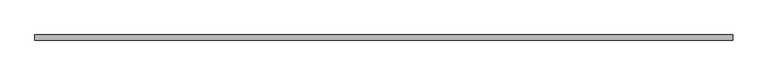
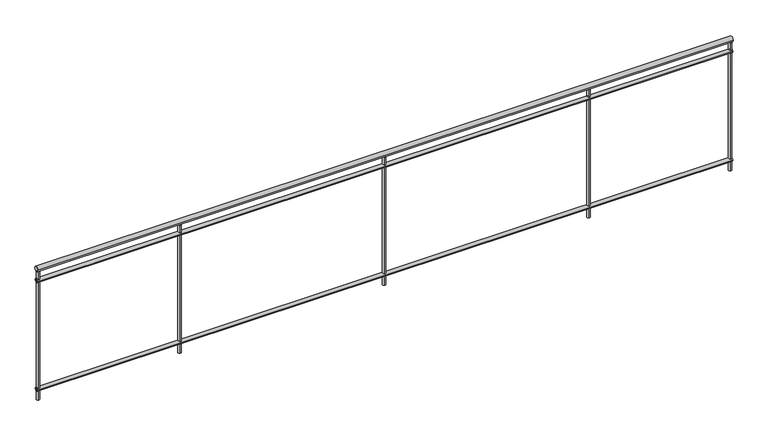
"""IFC4 building model written with IfcOpenShell, lengths in millimetres: railing geometry, バルコニー手摺."""

from ifc_helpers import new_model, si_unit, point, frame, frame_2d, origin, place, context, project, spatial, circle_curve, trimmed, segment, composite_curve, outline, extrude, source, transform, mapped, element, save


def railing_587aa39a(model_context):
    return source(origin(), model_context, "Body", "SweptSolid", [
        extrude(outline(composite_curve([segment(trimmed(circle_curve(frame_2d((10035.2598658, 4980.0)), 20.0), [point((10055.2598658, 4980.0))], [point((10015.2598658, 4980.0))], False, "CARTESIAN"), True, "CONTINUOUS"), segment(trimmed(circle_curve(frame_2d((10035.2598658, 4980.0)), 20.0), [point((10015.2598658, 4980.0))], [point((10055.2598658, 4980.0))], False, "CARTESIAN"), True, "CONTINUOUS")], self_intersect=False)), frame((3414.3805905, 0.0, 0.0), z_axis=(1.0, 0.0, 0.0), x_axis=(0.0, 1.0, 0.0)), (0.0, 0.0, 1.0), 5440.0),
        extrude(outline(composite_curve([segment(trimmed(circle_curve(frame_2d((10035.2598658, 4885.0)), 15.0), [point((10050.2598658, 4885.0))], [point((10020.2598658, 4885.0))], False, "CARTESIAN"), True, "CONTINUOUS"), segment(trimmed(circle_curve(frame_2d((10035.2598658, 4885.0)), 15.0), [point((10020.2598658, 4885.0))], [point((10050.2598658, 4885.0))], False, "CARTESIAN"), True, "CONTINUOUS")], self_intersect=False)), frame((3414.3805905, 0.0, 0.0), z_axis=(1.0, 0.0, 0.0), x_axis=(0.0, 1.0, 0.0)), (0.0, 0.0, 1.0), 5440.0),
        extrude(outline(composite_curve([segment(trimmed(circle_curve(frame_2d((10035.2598658, 3985.0)), 15.0), [point((10050.2598658, 3985.0))], [point((10020.2598658, 3985.0))], False, "CARTESIAN"), True, "CONTINUOUS"), segment(trimmed(circle_curve(frame_2d((10035.2598658, 3985.0)), 15.0), [point((10020.2598658, 3985.0))], [point((10050.2598658, 3985.0))], False, "CARTESIAN"), True, "CONTINUOUS")], self_intersect=False)), frame((3414.3805905, 0.0, 0.0), z_axis=(1.0, 0.0, 0.0), x_axis=(0.0, 1.0, 0.0)), (0.0, 0.0, 1.0), 5440.0),
        extrude(outline(composite_curve([segment(trimmed(circle_curve(frame_2d((7734.3805905, 10035.2598658)), 12.5), [point((7734.3805905, 10047.7598658))], [point((7734.3805905, 10022.7598658))], False, "CARTESIAN"), True, "CONTINUOUS"), segment(trimmed(circle_curve(frame_2d((7734.3805905, 10035.2598658)), 12.5), [point((7734.3805905, 10022.7598658))], [point((7734.3805905, 10047.7598658))], False, "CARTESIAN"), True, "CONTINUOUS")], self_intersect=False)), frame((0.0, 0.0, 3900.0), z_axis=(0.0, 0.0, 1.0), x_axis=(1.0, 0.0, 0.0)), (0.0, 0.0, 1.0), 1060.0),
        extrude(outline(composite_curve([segment(trimmed(circle_curve(frame_2d((6134.3805905, 10035.2598658)), 12.5), [point((6134.3805905, 10047.7598658))], [point((6134.3805905, 10022.7598658))], False, "CARTESIAN"), True, "CONTINUOUS"), segment(trimmed(circle_curve(frame_2d((6134.3805905, 10035.2598658)), 12.5), [point((6134.3805905, 10022.7598658))], [point((6134.3805905, 10047.7598658))], False, "CARTESIAN"), True, "CONTINUOUS")], self_intersect=False)), frame((0.0, 0.0, 3900.0), z_axis=(0.0, 0.0, 1.0), x_axis=(1.0, 0.0, 0.0)), (0.0, 0.0, 1.0), 1060.0),
        extrude(outline(composite_curve([segment(trimmed(circle_curve(frame_2d((4534.3805905, 10035.2598658)), 12.5), [point((4534.3805905, 10047.7598658))], [point((4534.3805905, 10022.7598658))], False, "CARTESIAN"), True, "CONTINUOUS"), segment(trimmed(circle_curve(frame_2d((4534.3805905, 10035.2598658)), 12.5), [point((4534.3805905, 10022.7598658))], [point((4534.3805905, 10047.7598658))], False, "CARTESIAN"), True, "CONTINUOUS")], self_intersect=False)), frame((0.0, 0.0, 3900.0), z_axis=(0.0, 0.0, 1.0), x_axis=(1.0, 0.0, 0.0)), (0.0, 0.0, 1.0), 1060.0),
        extrude(outline(composite_curve([segment(trimmed(circle_curve(frame_2d((8842.1805905, 10035.2598658)), 12.5), [point((8842.1805905, 10047.7598658))], [point((8842.1805905, 10022.7598658))], False, "CARTESIAN"), True, "CONTINUOUS"), segment(trimmed(circle_curve(frame_2d((8842.1805905, 10035.2598658)), 12.5), [point((8842.1805905, 10022.7598658))], [point((8842.1805905, 10047.7598658))], False, "CARTESIAN"), True, "CONTINUOUS")], self_intersect=False)), frame((0.0, 0.0, 3900.0), z_axis=(0.0, 0.0, 1.0), x_axis=(1.0, 0.0, 0.0)), (0.0, 0.0, 1.0), 1060.0),
        extrude(outline(composite_curve([segment(trimmed(circle_curve(frame_2d((3426.5805905, 10035.2598658)), 12.5), [point((3426.5805905, 10047.7598658))], [point((3426.5805905, 10022.7598658))], False, "CARTESIAN"), True, "CONTINUOUS"), segment(trimmed(circle_curve(frame_2d((3426.5805905, 10035.2598658)), 12.5), [point((3426.5805905, 10022.7598658))], [point((3426.5805905, 10047.7598658))], False, "CARTESIAN"), True, "CONTINUOUS")], self_intersect=False)), frame((0.0, 0.0, 3900.0), z_axis=(0.0, 0.0, 1.0), x_axis=(1.0, 0.0, 0.0)), (0.0, 0.0, 1.0), 1060.0),
    ])


if __name__ == "__main__":
    model = new_model("IFC4")
    model_context = context("Model", 3, world=origin())
    ifc_project = project(units=[si_unit("LENGTHUNIT", "METRE", prefix="MILLI")], contexts=[model_context])
    site = spatial("IfcSite", under=ifc_project)
    building = spatial("IfcBuilding", under=site)
    placement = place(None, origin())
    railing_shape = railing_587aa39a(model_context)
    element("IfcRailing", 1, ObjectType="バルコニー手摺", at=placement, inside=building, context=model_context, shape_type="MappedRepresentation", body=[
        mapped(railing_shape, transform((0.0, 0.0, 0.0), x_axis=(1.0, 0.0, 0.0), y_axis=(0.0, 1.0, 0.0), z_axis=(0.0, 0.0, 1.0))),
    ])
    save(model, "model.ifc")
